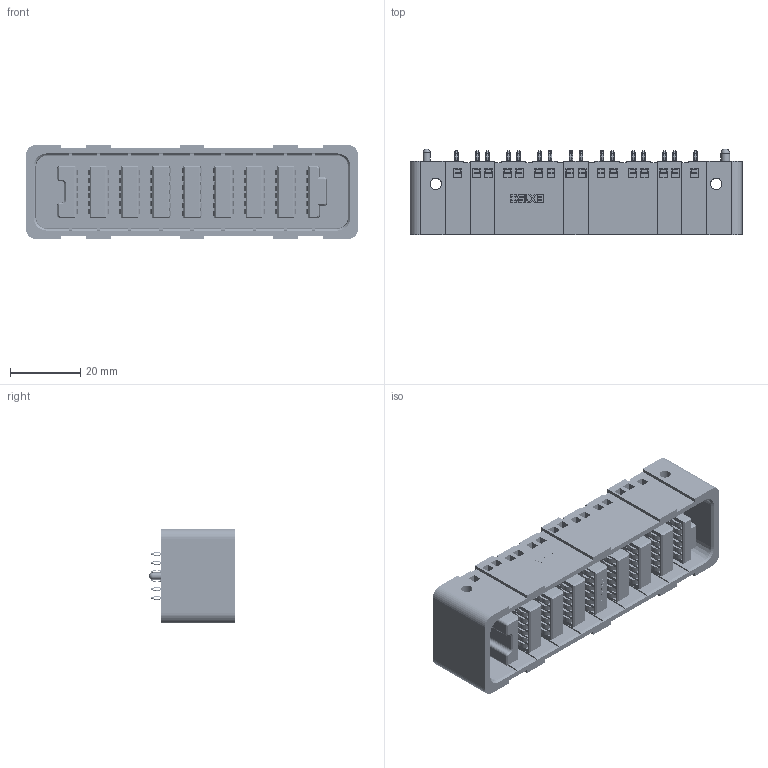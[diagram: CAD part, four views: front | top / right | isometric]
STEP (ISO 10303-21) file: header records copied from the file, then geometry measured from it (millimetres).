
FILE_DESCRIPTION(/* description */ (''),/* implementation_level */ '2;1');
FILE_NAME(/* name */ 'st.stp',/* time_stamp */ '2024-08-16T09:11:31+08:00',/* author */ (''),/* organization */ (''),/* preprocessor_version */ 'ST-DEVELOPER v16.7',/* originating_system */ 'SIEMENS PLM Software NX 1946',/* authorisation */ '');
FILE_SCHEMA (('AUTOMOTIVE_DESIGN { 1 0 10303 214 3 1 1 1 }'));
Products named in the file (1): _model1
Bounding box: 94.7 x 24.5 x 27 mm (x, y, z)
Volume: 33167.3 mm3; surface area: 28514.1 mm2
Topology: 1 solids, 33 shells, 6342 faces, 17176 edges, 10845 vertices
Faces by surface type: plane 2680, cylinder 2057, torus 768, extrusion 407, bspline 384, cone 44, sphere 2
Full cylindrical faces by diameter (mm): 2 x1, 2.5 x1, 3.2 x2
Entity records: 258948 total; most frequent: CARTESIAN_POINT 69113, ORIENTED_EDGE 34326, DIRECTION 31217, EDGE_CURVE 17163, VERTEX_POINT 10838, AXIS2_PLACEMENT_3D 10557, VECTOR 10103, LINE 9696
